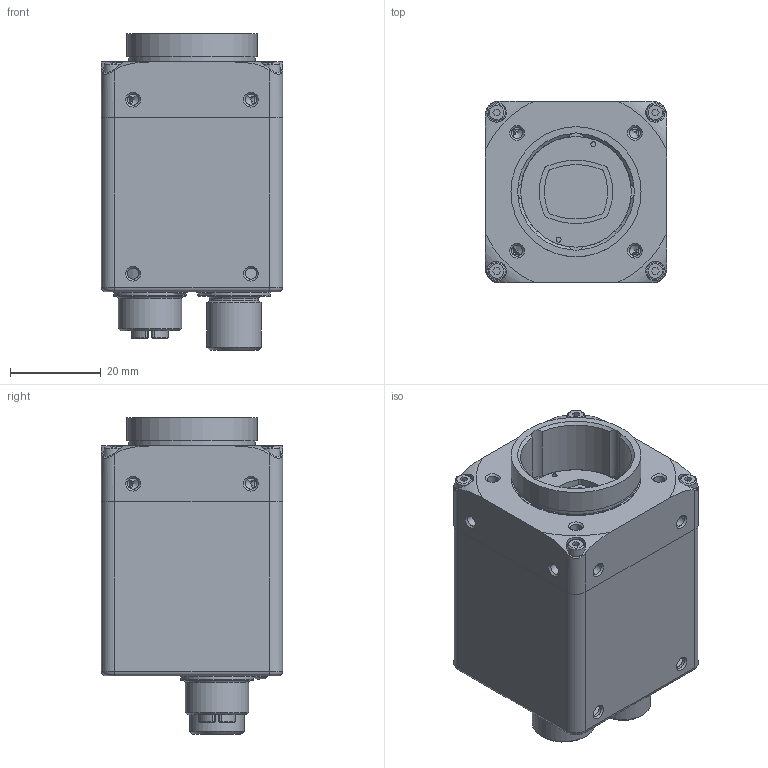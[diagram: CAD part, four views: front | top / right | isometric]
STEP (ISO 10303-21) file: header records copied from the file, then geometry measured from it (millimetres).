
FILE_DESCRIPTION( ( 'Unknown' ), '1' );
FILE_NAME( 'C:/Users/rih/Desktop/11186791_VCXG-32M.I.stp', '14.10.2014', ( 'Unknown' ), ( 'Unknown' ), 'PSStep 15.0.49', 'Unknown', ' ' );
FILE_SCHEMA( ( 'AUTOMOTIVE_DESIGN { 1 0 10303 214 1 1 1 1 }' ) );
Length unit declared in the file: millimetre
Products named in the file (4): 11096515
Bounding box: 40 x 40 x 69.9 mm (x, y, z)
Volume: 26054.4 mm3; surface area: 30289 mm2
Topology: 4 solids, 6 shells, 1753 faces, 4374 edges, 2948 vertices
Faces by surface type: plane 831, cylinder 688, torus 92, cone 67, sphere 36, extrusion 20, bspline 19
Full cylindrical faces by diameter (mm): 0.217 x2, 0.6 x238, 0.63 x12, 0.7 x8, 0.75 x1, 0.8 x8, 0.85 x1, 1 x3, 1.1 x14, 1.24 x8, 2 x6, 2.4 x4, 2.459 x26, 2.8 x2, 3.4 x2, 3.8 x4, 8 x2, 8.25 x1, 8.3 x1, 8.4 x1, 8.9 x1, 9 x1, 9.3 x2, 9.4 x2, 10 x1, 10.2 x1, 10.75 x1, 11 x1, 12 x3, 13.3 x2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
Entity records: 65777 total; most frequent: CARTESIAN_POINT 13362, DIRECTION 8142, ORIENTED_EDGE 6956, EDGE_CURVE 3478, AXIS2_PLACEMENT_3D 3283, EDGE_LOOP 2628, VERTEX_POINT 2588, FACE_OUTER_BOUND 2186
